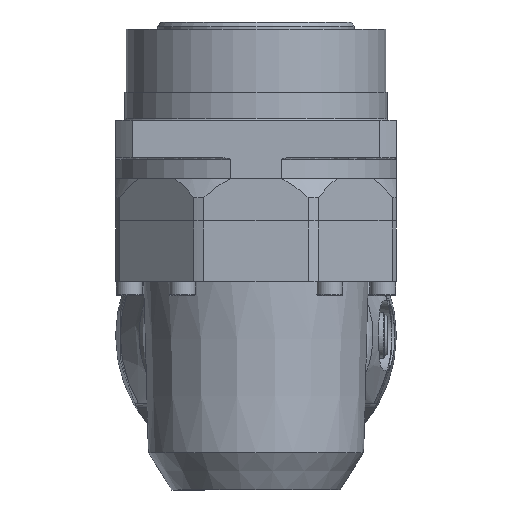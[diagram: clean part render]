
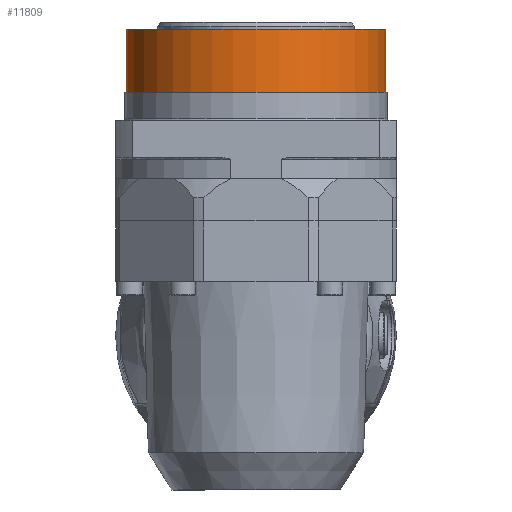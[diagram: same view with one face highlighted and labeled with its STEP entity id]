
A CAD part, front view. The second image highlights one B-rep face of the part: STEP entity #11809.
In plain terms, the highlighted cylindrical face has radius 27.75 mm (diameter 55.5 mm), a full revolution.
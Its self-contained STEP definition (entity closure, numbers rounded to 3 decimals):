
#761=CYLINDRICAL_SURFACE('',#13021,27.75);
#1196=LINE('',#18844,#1798);
#1798=VECTOR('',#14854,27.75);
#2621=FACE_OUTER_BOUND('',#3305,.T.);
#3305=EDGE_LOOP('',(#8489,#8490,#8491,#8492,#8493,#8494));
#4169=CIRCLE('',#13022,27.75);
#4170=CIRCLE('',#13023,27.75);
#4171=CIRCLE('',#13024,27.75);
#4172=CIRCLE('',#13025,27.75);
#5236=VERTEX_POINT('',#18839);
#5237=VERTEX_POINT('',#18840);
#5238=VERTEX_POINT('',#18843);
#5239=VERTEX_POINT('',#18845);
#6614=EDGE_CURVE('',#5236,#5237,#4169,.T.);
#6615=EDGE_CURVE('',#5237,#5236,#4170,.T.);
#6616=EDGE_CURVE('',#5237,#5238,#1196,.T.);
#6617=EDGE_CURVE('',#5238,#5239,#4171,.T.);
#6618=EDGE_CURVE('',#5239,#5238,#4172,.T.);
#8489=ORIENTED_EDGE('',*,*,#6614,.F.);
#8490=ORIENTED_EDGE('',*,*,#6615,.F.);
#8491=ORIENTED_EDGE('',*,*,#6616,.T.);
#8492=ORIENTED_EDGE('',*,*,#6617,.T.);
#8493=ORIENTED_EDGE('',*,*,#6618,.T.);
#8494=ORIENTED_EDGE('',*,*,#6616,.F.);
#11809=ADVANCED_FACE('',(#2621),#761,.T.);
#13021=AXIS2_PLACEMENT_3D('',#18838,#14848,#14849);
#13022=AXIS2_PLACEMENT_3D('',#18841,#14850,#14851);
#13023=AXIS2_PLACEMENT_3D('',#18842,#14852,#14853);
#13024=AXIS2_PLACEMENT_3D('',#18846,#14855,#14856);
#13025=AXIS2_PLACEMENT_3D('',#18847,#14857,#14858);
#14848=DIRECTION('center_axis',(1.,0.,0.));
#14849=DIRECTION('ref_axis',(0.,1.,0.));
#14850=DIRECTION('center_axis',(1.,0.,0.));
#14851=DIRECTION('ref_axis',(0.,0.,-1.));
#14852=DIRECTION('center_axis',(1.,0.,0.));
#14853=DIRECTION('ref_axis',(0.,0.,-1.));
#14854=DIRECTION('',(-1.,0.,0.));
#14855=DIRECTION('center_axis',(1.,0.,0.));
#14856=DIRECTION('ref_axis',(0.,0.,-1.));
#14857=DIRECTION('center_axis',(1.,0.,0.));
#14858=DIRECTION('ref_axis',(0.,0.,-1.));
#18838=CARTESIAN_POINT('Origin',(6.75,0.,0.));
#18839=CARTESIAN_POINT('',(13.5,27.75,0.));
#18840=CARTESIAN_POINT('',(13.5,-27.75,0.));
#18841=CARTESIAN_POINT('Origin',(13.5,0.,0.));
#18842=CARTESIAN_POINT('Origin',(13.5,0.,0.));
#18843=CARTESIAN_POINT('',(0.,-27.75,0.));
#18844=CARTESIAN_POINT('',(6.75,-27.75,0.));
#18845=CARTESIAN_POINT('',(0.,27.75,0.));
#18846=CARTESIAN_POINT('Origin',(0.,0.,0.));
#18847=CARTESIAN_POINT('Origin',(0.,0.,0.));
